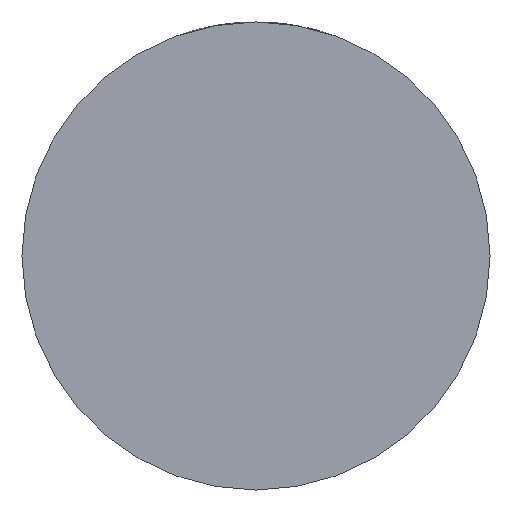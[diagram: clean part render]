
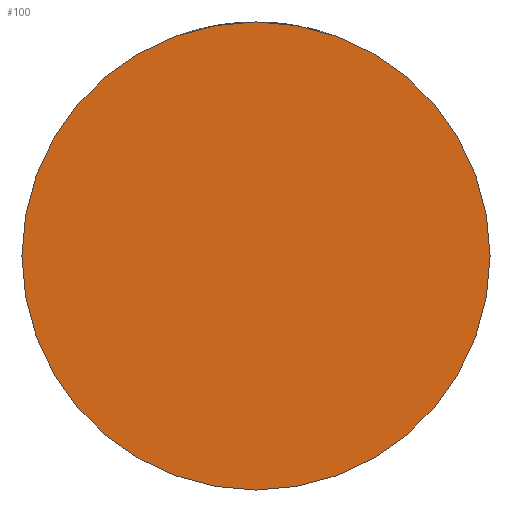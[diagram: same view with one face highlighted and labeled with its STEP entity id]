
A CAD part, front view. The second image highlights one B-rep face of the part: STEP entity #100.
In plain terms, the highlighted planar face has unit normal (0, -1, 0).
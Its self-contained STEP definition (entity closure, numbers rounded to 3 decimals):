
#100 = ADVANCED_FACE ( 'NONE', ( #1864 ), #865, .T. ) ;
#130 = CIRCLE ( 'NONE', #406, 32.5 ) ;
#162 = CARTESIAN_POINT ( 'NONE',  ( -32.5, -26., 0. ) ) ;
#406 = AXIS2_PLACEMENT_3D ( 'NONE', #2594, #1600, #3863 ) ;
#787 = DIRECTION ( 'NONE',  ( 0., -1., 0. ) ) ;
#865 = PLANE ( 'NONE',  #873 ) ;
#873 = AXIS2_PLACEMENT_3D ( 'NONE', #2236, #3816, #1233 ) ;
#1233 = DIRECTION ( 'NONE',  ( 1., 0., 0. ) ) ;
#1282 = EDGE_LOOP ( 'NONE', ( #2575, #1450 ) ) ;
#1450 = ORIENTED_EDGE ( 'NONE', *, *, #2026, .T. ) ;
#1453 = CIRCLE ( 'NONE', #3861, 32.5 ) ;
#1600 = DIRECTION ( 'NONE',  ( 0., -1., 0. ) ) ;
#1864 = FACE_OUTER_BOUND ( 'NONE', #1282, .T. ) ;
#1867 = CARTESIAN_POINT ( 'NONE',  ( 32.5, -26., 0. ) ) ;
#2000 = EDGE_CURVE ( 'NONE', #2974, #2607, #1453, .T. ) ;
#2026 = EDGE_CURVE ( 'NONE', #2607, #2974, #130, .T. ) ;
#2236 = CARTESIAN_POINT ( 'NONE',  ( 0., -26., 0. ) ) ;
#2575 = ORIENTED_EDGE ( 'NONE', *, *, #2000, .T. ) ;
#2594 = CARTESIAN_POINT ( 'NONE',  ( 0., -26., 0. ) ) ;
#2607 = VERTEX_POINT ( 'NONE', #1867 ) ;
#2746 = CARTESIAN_POINT ( 'NONE',  ( 0., -26., 0. ) ) ;
#2974 = VERTEX_POINT ( 'NONE', #162 ) ;
#3816 = DIRECTION ( 'NONE',  ( 0., -1., 0. ) ) ;
#3861 = AXIS2_PLACEMENT_3D ( 'NONE', #2746, #787, #4032 ) ;
#3863 = DIRECTION ( 'NONE',  ( 1., 0., 0. ) ) ;
#4032 = DIRECTION ( 'NONE',  ( 1., 0., 0. ) ) ;
